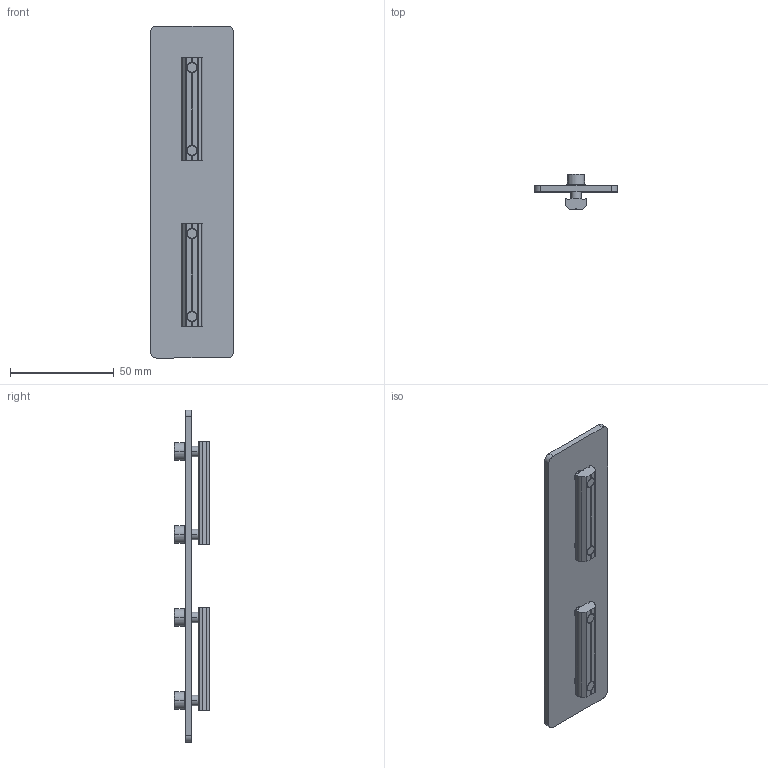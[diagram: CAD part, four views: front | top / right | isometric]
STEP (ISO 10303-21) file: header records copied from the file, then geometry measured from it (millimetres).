
FILE_DESCRIPTION (( 'STEP AP214' ), '1' );
FILE_NAME ('SFP-S40160.STEP', '2019-10-30T08:00:13', ( '微软用户' ), ( '微软中国' ), 'SwSTEP 2.0', 'SolidWorks 2016', '' );
FILE_SCHEMA (( 'AUTOMOTIVE_DESIGN' ));
Length unit declared in the file: millimetre
Products named in the file (5): PTS-M5; PTN-M5P40; PTC-M5L12; SFP-S40160
Assembly tree (11 placements, depth 2):
  SFP-S40160
    SFP-S40160
    PTC-M5L12  x4
    PTN-M5P40  x2
    PTS-M5  x4
Bounding box: 40 x 17 x 160 mm (x, y, z)
Volume: 25275.6 mm3; surface area: 19748.5 mm2
Topology: 11 solids, 11 shells, 854 faces, 2496 edges, 1656 vertices
Faces by surface type: plane 742, cylinder 88, cone 24
Entity records: 8810 total; most frequent: CARTESIAN_POINT 1686, DIRECTION 1480, ORIENTED_EDGE 1476, EDGE_CURVE 738, AXIS2_PLACEMENT_3D 508, VERTEX_POINT 490, VECTOR 464, LINE 464
